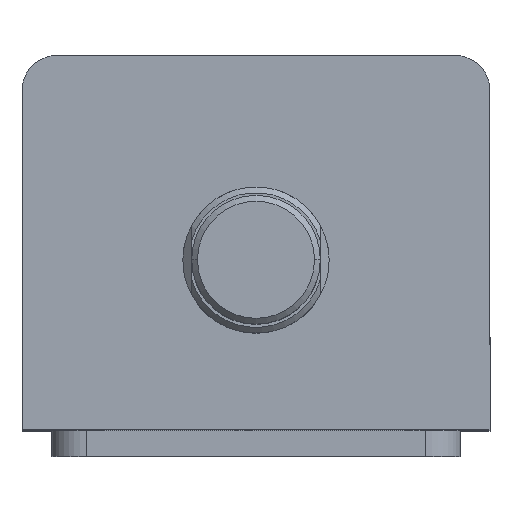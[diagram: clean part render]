
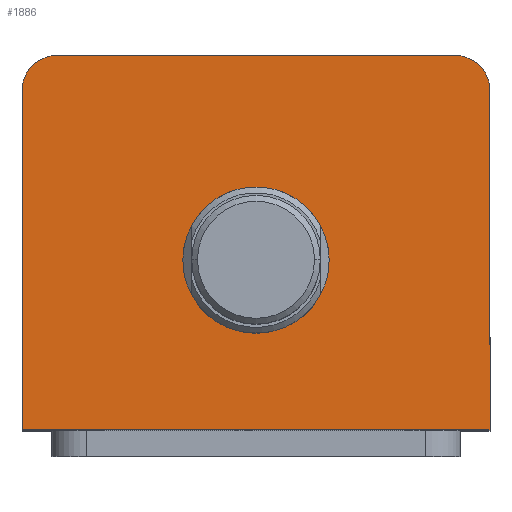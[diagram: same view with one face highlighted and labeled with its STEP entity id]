
A CAD part, top view. The second image highlights one B-rep face of the part: STEP entity #1886.
In plain terms, the highlighted planar face has unit normal (0, 0, 1).
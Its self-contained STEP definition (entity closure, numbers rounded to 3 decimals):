
#24 = DIRECTION ( 'NONE',  ( 0., 1., 0. ) ) ;
#29 = CARTESIAN_POINT ( 'NONE',  ( 40., 32., 155. ) ) ;
#68 = DIRECTION ( 'NONE',  ( 1., 0., 0. ) ) ;
#69 = DIRECTION ( 'NONE',  ( 0., 0., 1. ) ) ;
#70 = CARTESIAN_POINT ( 'NONE',  ( 0., -3., 155. ) ) ;
#492 = CIRCLE ( 'NONE', #2542, 6. ) ;
#498 = LINE ( 'NONE', #3301, #501 ) ;
#501 = VECTOR ( 'NONE', #3305, 1000. ) ;
#618 = CIRCLE ( 'NONE', #2587, 12.5 ) ;
#648 = LINE ( 'NONE', #29, #651 ) ;
#651 = VECTOR ( 'NONE', #24, 1000. ) ;
#671 = CIRCLE ( 'NONE', #2599, 12.5 ) ;
#758 = EDGE_CURVE ( 'NONE', #1810, #1050, #2835, .T. ) ;
#873 = ORIENTED_EDGE ( 'NONE', *, *, #758, .T. ) ;
#888 = ORIENTED_EDGE ( 'NONE', *, *, #2101, .T. ) ;
#904 = ORIENTED_EDGE ( 'NONE', *, *, #2814, .F. ) ;
#933 = VERTEX_POINT ( 'NONE', #1633 ) ;
#1021 = VERTEX_POINT ( 'NONE', #1594 ) ;
#1050 = VERTEX_POINT ( 'NONE', #1575 ) ;
#1078 = ORIENTED_EDGE ( 'NONE', *, *, #1511, .T. ) ;
#1083 = ORIENTED_EDGE ( 'NONE', *, *, #3230, .T. ) ;
#1085 = ORIENTED_EDGE ( 'NONE', *, *, #1109, .T. ) ;
#1109 = EDGE_CURVE ( 'NONE', #1489, #1810, #2865, .T. ) ;
#1422 = VERTEX_POINT ( 'NONE', #3695 ) ;
#1428 = VERTEX_POINT ( 'NONE', #3690 ) ;
#1429 = VERTEX_POINT ( 'NONE', #3693 ) ;
#1489 = VERTEX_POINT ( 'NONE', #3659 ) ;
#1511 = EDGE_CURVE ( 'NONE', #933, #1429, #2922, .T. ) ;
#1575 = CARTESIAN_POINT ( 'NONE',  ( -34., 32., 155. ) ) ;
#1594 = CARTESIAN_POINT ( 'NONE',  ( -40., 26., 155. ) ) ;
#1633 = CARTESIAN_POINT ( 'NONE',  ( -40., -32., 155. ) ) ;
#1641 = DIRECTION ( 'NONE',  ( -1., 0., 0. ) ) ;
#1645 = CARTESIAN_POINT ( 'NONE',  ( -40., 32., 155. ) ) ;
#1810 = VERTEX_POINT ( 'NONE', #3605 ) ;
#1829 = ORIENTED_EDGE ( 'NONE', *, *, #2105, .T. ) ;
#1832 = ORIENTED_EDGE ( 'NONE', *, *, #3243, .F. ) ;
#1886 = ADVANCED_FACE ( 'NONE', ( #2954, #2963 ), #3533, .T. ) ;
#2013 = EDGE_LOOP ( 'NONE', ( #873, #888, #1829, #1078, #1083, #1085 ) ) ;
#2073 = EDGE_LOOP ( 'NONE', ( #1832, #904 ) ) ;
#2101 = EDGE_CURVE ( 'NONE', #1050, #1021, #492, .T. ) ;
#2105 = EDGE_CURVE ( 'NONE', #1021, #933, #498, .T. ) ;
#2405 = AXIS2_PLACEMENT_3D ( 'NONE', #3703, #3698, #3691 ) ;
#2434 = AXIS2_PLACEMENT_3D ( 'NONE', #3538, #3531, #3530 ) ;
#2542 = AXIS2_PLACEMENT_3D ( 'NONE', #3328, #3321, #3318 ) ;
#2587 = AXIS2_PLACEMENT_3D ( 'NONE', #2771, #2770, #2769 ) ;
#2599 = AXIS2_PLACEMENT_3D ( 'NONE', #70, #69, #68 ) ;
#2769 = DIRECTION ( 'NONE',  ( 1., 0., 0. ) ) ;
#2770 = DIRECTION ( 'NONE',  ( 0., 0., 1. ) ) ;
#2771 = CARTESIAN_POINT ( 'NONE',  ( 0., -3., 155. ) ) ;
#2814 = EDGE_CURVE ( 'NONE', #1428, #1422, #618, .T. ) ;
#2835 = LINE ( 'NONE', #1645, #2836 ) ;
#2836 = VECTOR ( 'NONE', #1641, 1000. ) ;
#2865 = CIRCLE ( 'NONE', #2405, 6. ) ;
#2922 = LINE ( 'NONE', #3628, #2925 ) ;
#2925 = VECTOR ( 'NONE', #3627, 1000. ) ;
#2954 = FACE_BOUND ( 'NONE', #2073, .T. ) ;
#2963 = FACE_OUTER_BOUND ( 'NONE', #2013, .T. ) ;
#3230 = EDGE_CURVE ( 'NONE', #1429, #1489, #648, .T. ) ;
#3243 = EDGE_CURVE ( 'NONE', #1422, #1428, #671, .T. ) ;
#3301 = CARTESIAN_POINT ( 'NONE',  ( -40., 32., 155. ) ) ;
#3305 = DIRECTION ( 'NONE',  ( 0., -1., 0. ) ) ;
#3318 = DIRECTION ( 'NONE',  ( 1., 0., 0. ) ) ;
#3321 = DIRECTION ( 'NONE',  ( 0., 0., 1. ) ) ;
#3328 = CARTESIAN_POINT ( 'NONE',  ( -34., 26., 155. ) ) ;
#3530 = DIRECTION ( 'NONE',  ( 1., 0., 0. ) ) ;
#3531 = DIRECTION ( 'NONE',  ( 0., 0., 1. ) ) ;
#3533 = PLANE ( 'NONE',  #2434 ) ;
#3538 = CARTESIAN_POINT ( 'NONE',  ( 0., 0., 155. ) ) ;
#3605 = CARTESIAN_POINT ( 'NONE',  ( 34., 32., 155. ) ) ;
#3627 = DIRECTION ( 'NONE',  ( 1., 0., 0. ) ) ;
#3628 = CARTESIAN_POINT ( 'NONE',  ( -40., -32., 155. ) ) ;
#3659 = CARTESIAN_POINT ( 'NONE',  ( 40., 26., 155. ) ) ;
#3690 = CARTESIAN_POINT ( 'NONE',  ( -12.5, -3., 155. ) ) ;
#3691 = DIRECTION ( 'NONE',  ( 1., 0., 0. ) ) ;
#3693 = CARTESIAN_POINT ( 'NONE',  ( 40., -32., 155. ) ) ;
#3695 = CARTESIAN_POINT ( 'NONE',  ( 12.5, -3., 155. ) ) ;
#3698 = DIRECTION ( 'NONE',  ( 0., 0., 1. ) ) ;
#3703 = CARTESIAN_POINT ( 'NONE',  ( 34., 26., 155. ) ) ;
